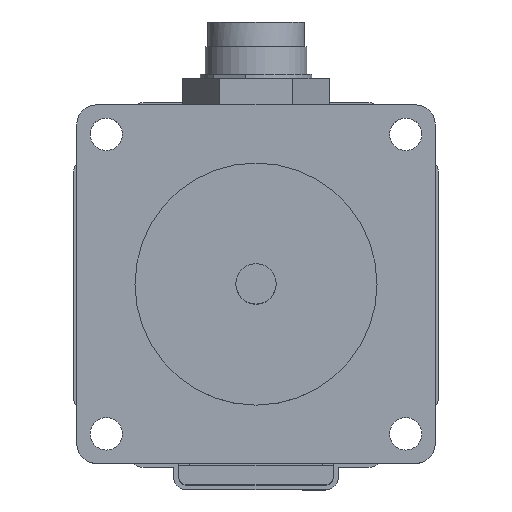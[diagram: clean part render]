
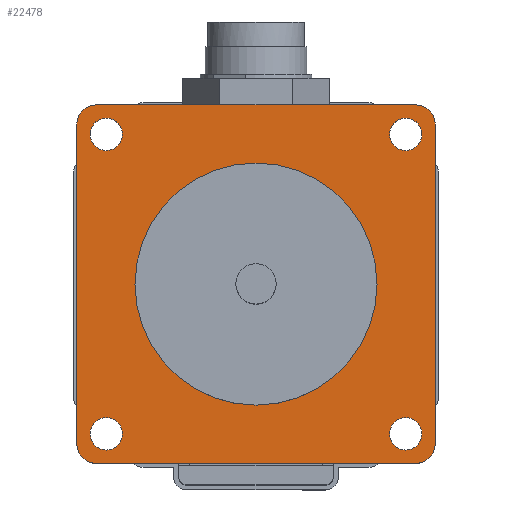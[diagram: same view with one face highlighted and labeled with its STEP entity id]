
A CAD part, top view. The second image highlights one B-rep face of the part: STEP entity #22478.
In plain terms, the highlighted planar face has unit normal (0, 0, 1).
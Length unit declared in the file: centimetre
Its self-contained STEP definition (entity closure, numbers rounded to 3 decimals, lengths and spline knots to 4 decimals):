
#2140=PLANE('',#23836);
#2764=VECTOR('',#25014,1.);
#2765=VECTOR('',#25017,1.);
#2766=VECTOR('',#25020,1.);
#2767=VECTOR('',#25023,1.);
#4714=LINE('',#28564,#2764);
#4715=LINE('',#28569,#2765);
#4716=LINE('',#28573,#2766);
#4717=LINE('',#28577,#2767);
#6676=VERTEX_POINT('',#28565);
#6677=VERTEX_POINT('',#28566);
#6678=VERTEX_POINT('',#28568);
#6679=VERTEX_POINT('',#28570);
#6680=VERTEX_POINT('',#28572);
#6681=VERTEX_POINT('',#28574);
#6682=VERTEX_POINT('',#28576);
#6683=VERTEX_POINT('',#28578);
#6684=VERTEX_POINT('',#28581);
#6685=VERTEX_POINT('',#28583);
#6686=VERTEX_POINT('',#28585);
#6687=VERTEX_POINT('',#28587);
#6688=VERTEX_POINT('',#28589);
#8944=CIRCLE('',#23837,0.3);
#8945=CIRCLE('',#23838,0.3);
#8946=CIRCLE('',#23839,0.3);
#8947=CIRCLE('',#23840,0.3);
#8948=CIRCLE('',#23841,0.255);
#8949=CIRCLE('',#23842,0.255);
#8950=CIRCLE('',#23843,0.255);
#8951=CIRCLE('',#23844,0.255);
#8952=CIRCLE('',#23845,1.905);
#9313=EDGE_CURVE('',#6676,#6677,#4714,.T.);
#9314=EDGE_CURVE('',#6677,#6678,#8944,.T.);
#9315=EDGE_CURVE('',#6678,#6679,#4715,.T.);
#9316=EDGE_CURVE('',#6679,#6680,#8945,.T.);
#9317=EDGE_CURVE('',#6680,#6681,#4716,.T.);
#9318=EDGE_CURVE('',#6681,#6682,#8946,.T.);
#9319=EDGE_CURVE('',#6682,#6683,#4717,.T.);
#9320=EDGE_CURVE('',#6683,#6676,#8947,.T.);
#9321=EDGE_CURVE('',#6684,#6684,#8948,.T.);
#9322=EDGE_CURVE('',#6685,#6685,#8949,.T.);
#9323=EDGE_CURVE('',#6686,#6686,#8950,.T.);
#9324=EDGE_CURVE('',#6687,#6687,#8951,.T.);
#9325=EDGE_CURVE('',#6688,#6688,#8952,.T.);
#12797=ORIENTED_EDGE('',*,*,#9313,.T.);
#12798=ORIENTED_EDGE('',*,*,#9314,.T.);
#12799=ORIENTED_EDGE('',*,*,#9315,.T.);
#12800=ORIENTED_EDGE('',*,*,#9316,.T.);
#12801=ORIENTED_EDGE('',*,*,#9317,.T.);
#12802=ORIENTED_EDGE('',*,*,#9318,.T.);
#12803=ORIENTED_EDGE('',*,*,#9319,.T.);
#12804=ORIENTED_EDGE('',*,*,#9320,.T.);
#12805=ORIENTED_EDGE('',*,*,#9321,.F.);
#12806=ORIENTED_EDGE('',*,*,#9322,.F.);
#12807=ORIENTED_EDGE('',*,*,#9323,.F.);
#12808=ORIENTED_EDGE('',*,*,#9324,.F.);
#12809=ORIENTED_EDGE('',*,*,#9325,.F.);
#19604=EDGE_LOOP('',(#12797,#12798,#12799,#12800,#12801,#12802,#12803,#12804));
#19605=EDGE_LOOP('',(#12805));
#19606=EDGE_LOOP('',(#12806));
#19607=EDGE_LOOP('',(#12807));
#19608=EDGE_LOOP('',(#12808));
#19609=EDGE_LOOP('',(#12809));
#21043=FACE_BOUND('',#19604,.T.);
#21044=FACE_BOUND('',#19605,.T.);
#21045=FACE_BOUND('',#19606,.T.);
#21046=FACE_BOUND('',#19607,.T.);
#21047=FACE_BOUND('',#19608,.T.);
#21048=FACE_BOUND('',#19609,.T.);
#22478=ADVANCED_FACE('',(#21043,#21044,#21045,#21046,#21047,#21048),#2140,
 .T.);
#23836=AXIS2_PLACEMENT_3D('',#28563,#25013,$);
#23837=AXIS2_PLACEMENT_3D('',#28567,#25015,#25016);
#23838=AXIS2_PLACEMENT_3D('',#28571,#25018,#25019);
#23839=AXIS2_PLACEMENT_3D('',#28575,#25021,#25022);
#23840=AXIS2_PLACEMENT_3D('',#28579,#25024,#25025);
#23841=AXIS2_PLACEMENT_3D('',#28580,#25026,#25027);
#23842=AXIS2_PLACEMENT_3D('',#28582,#25028,#25029);
#23843=AXIS2_PLACEMENT_3D('',#28584,#25030,#25031);
#23844=AXIS2_PLACEMENT_3D('',#28586,#25032,#25033);
#23845=AXIS2_PLACEMENT_3D('',#28588,#25034,#25035);
#25013=DIRECTION('',(0.,0.,1.));
#25014=DIRECTION('',(0.,-1.,0.));
#25015=DIRECTION('',(0.,0.,1.));
#25016=DIRECTION('',(0.3,0.,0.));
#25017=DIRECTION('',(1.,0.,0.));
#25018=DIRECTION('',(0.,0.,1.));
#25019=DIRECTION('',(0.3,0.,0.));
#25020=DIRECTION('',(0.,1.,0.));
#25021=DIRECTION('',(0.,0.,1.));
#25022=DIRECTION('',(0.3,0.,0.));
#25023=DIRECTION('',(-1.,0.,0.));
#25024=DIRECTION('',(0.,0.,1.));
#25025=DIRECTION('',(0.3,0.,0.));
#25026=DIRECTION('',(0.,0.,1.));
#25027=DIRECTION('',(0.255,0.,0.));
#25028=DIRECTION('',(0.,0.,1.));
#25029=DIRECTION('',(0.255,0.,0.));
#25030=DIRECTION('',(0.,0.,1.));
#25031=DIRECTION('',(0.255,0.,0.));
#25032=DIRECTION('',(0.,0.,1.));
#25033=DIRECTION('',(0.255,0.,0.));
#25034=DIRECTION('',(0.,0.,1.));
#25035=DIRECTION('',(1.905,0.,0.));
#28563=CARTESIAN_POINT('',(0.,0.,0.));
#28564=CARTESIAN_POINT('',(-2.82,2.52,0.));
#28565=CARTESIAN_POINT('',(-2.82,2.52,0.));
#28566=CARTESIAN_POINT('',(-2.82,-2.52,0.));
#28567=CARTESIAN_POINT('',(-2.52,-2.52,0.));
#28568=CARTESIAN_POINT('',(-2.52,-2.82,0.));
#28569=CARTESIAN_POINT('',(-2.52,-2.82,0.));
#28570=CARTESIAN_POINT('',(2.52,-2.82,0.));
#28571=CARTESIAN_POINT('',(2.52,-2.52,0.));
#28572=CARTESIAN_POINT('',(2.82,-2.52,0.));
#28573=CARTESIAN_POINT('',(2.82,-2.52,0.));
#28574=CARTESIAN_POINT('',(2.82,2.52,0.));
#28575=CARTESIAN_POINT('',(2.52,2.52,0.));
#28576=CARTESIAN_POINT('',(2.52,2.82,0.));
#28577=CARTESIAN_POINT('',(2.52,2.82,0.));
#28578=CARTESIAN_POINT('',(-2.52,2.82,0.));
#28579=CARTESIAN_POINT('',(-2.52,2.52,0.));
#28580=CARTESIAN_POINT('',(2.357,-2.357,0.));
#28581=CARTESIAN_POINT('',(2.612,-2.357,0.));
#28582=CARTESIAN_POINT('',(2.357,2.357,0.));
#28583=CARTESIAN_POINT('',(2.612,2.357,0.));
#28584=CARTESIAN_POINT('',(-2.357,2.357,0.));
#28585=CARTESIAN_POINT('',(-2.102,2.357,0.));
#28586=CARTESIAN_POINT('',(-2.357,-2.357,0.));
#28587=CARTESIAN_POINT('',(-2.102,-2.357,0.));
#28588=CARTESIAN_POINT('',(0.,0.,0.));
#28589=CARTESIAN_POINT('',(1.905,0.,0.));
